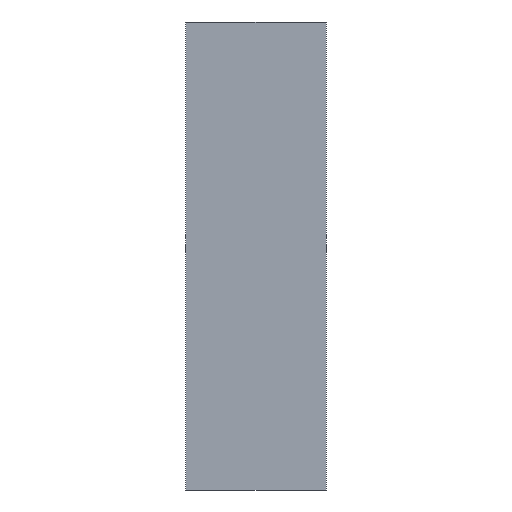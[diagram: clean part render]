
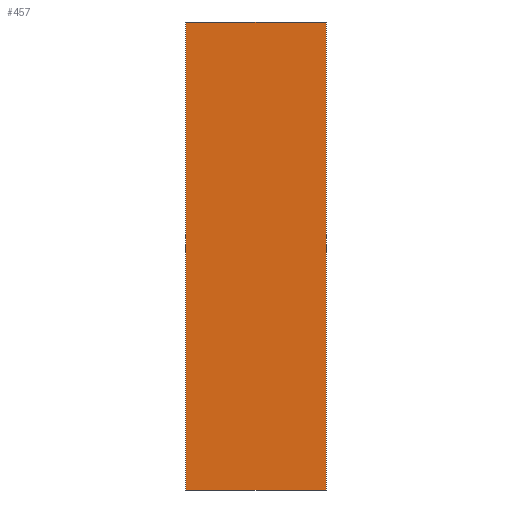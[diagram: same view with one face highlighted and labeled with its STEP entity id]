
A CAD part, front view. The second image highlights one B-rep face of the part: STEP entity #457.
In plain terms, the highlighted planar face has unit normal (0, -1, 0).
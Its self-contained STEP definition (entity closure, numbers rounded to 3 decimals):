
#64=LINE('',#726,#120);
#66=LINE('',#730,#122);
#67=LINE('',#732,#123);
#68=LINE('',#734,#124);
#120=VECTOR('',#596,1000.);
#122=VECTOR('',#600,1000.);
#123=VECTOR('',#601,1000.);
#124=VECTOR('',#602,1000.);
#145=PLANE('',#499);
#231=ORIENTED_EDGE('',*,*,#326,.T.);
#232=ORIENTED_EDGE('',*,*,#328,.F.);
#233=ORIENTED_EDGE('',*,*,#329,.F.);
#234=ORIENTED_EDGE('',*,*,#330,.T.);
#326=EDGE_CURVE('',#375,#374,#64,.T.);
#328=EDGE_CURVE('',#376,#374,#66,.T.);
#329=EDGE_CURVE('',#377,#376,#67,.T.);
#330=EDGE_CURVE('',#377,#375,#68,.T.);
#374=VERTEX_POINT('',#725);
#375=VERTEX_POINT('',#727);
#376=VERTEX_POINT('',#731);
#377=VERTEX_POINT('',#733);
#404=EDGE_LOOP('',(#231,#232,#233,#234));
#430=FACE_BOUND('',#404,.T.);
#457=ADVANCED_FACE('',(#430),#145,.F.);
#499=AXIS2_PLACEMENT_3D('',#729,#598,#599);
#596=DIRECTION('',(1.,0.,0.));
#598=DIRECTION('',(0.,1.,0.));
#599=DIRECTION('',(-1.,0.,0.));
#600=DIRECTION('',(0.,0.,-1.));
#601=DIRECTION('',(1.,0.,0.));
#602=DIRECTION('',(0.,0.,-1.));
#725=CARTESIAN_POINT('',(15.,-7.5,-50.));
#726=CARTESIAN_POINT('',(-15.,-7.5,-50.));
#727=CARTESIAN_POINT('',(-15.,-7.5,-50.));
#729=CARTESIAN_POINT('',(-15.,-7.5,50.));
#730=CARTESIAN_POINT('',(15.,-7.5,50.));
#731=CARTESIAN_POINT('',(15.,-7.5,50.));
#732=CARTESIAN_POINT('',(-15.,-7.5,50.));
#733=CARTESIAN_POINT('',(-15.,-7.5,50.));
#734=CARTESIAN_POINT('',(-15.,-7.5,50.));
